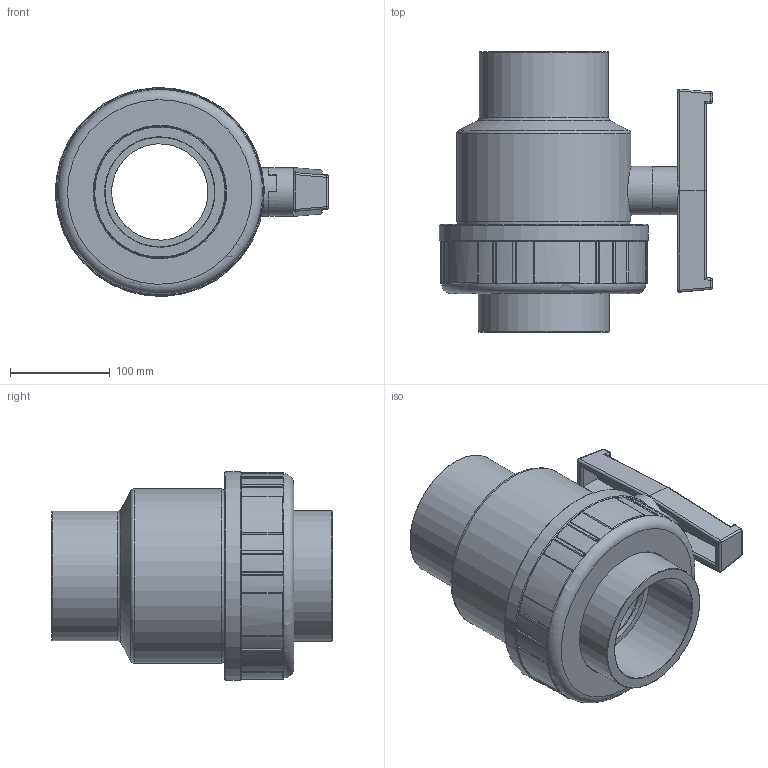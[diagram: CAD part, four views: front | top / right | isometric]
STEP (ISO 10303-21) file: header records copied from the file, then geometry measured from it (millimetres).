
FILE_DESCRIPTION(/* description */ (''),/* implementation_level */ '2;1');
FILE_NAME(/* name */ 'C:\Users\POLYPIPE\Desktop\DATASET INVENTOR\LIBRERIA EFFAST\3D_VALVOLE\3D_VALVOLE A SFERA\3D_SV\3D_BDRSVD\3D_BDRSVD1100.stp',/* time_stamp */ '2018-01-23T16:53:44+01:00',/* author */ ('POLYPIPE'),/* organization */ (''),/* preprocessor_version */ 'ST-DEVELOPER v16.1',/* originating_system */ 'Autodesk Inventor 2016',/* authorisation */ '');
FILE_SCHEMA (('CONFIG_CONTROL_DESIGN'));
Length unit declared in the file: centimetre
Products named in the file (1): 3D_BDRSVD1100
Bounding box: 274.39 x 281.3 x 209.78 mm (x, y, z)
Volume: 3955820.8 mm3; surface area: 435143.4 mm2
Topology: 2 solids, 3 shells, 323 faces, 802 edges, 496 vertices
Faces by surface type: cylinder 122, bspline 83, plane 78, torus 21, sphere 16, cone 3
Full cylindrical faces by diameter (mm): 32 x1, 48.3 x1, 48.8 x1, 96.8 x1, 97 x1, 110 x2, 130 x1, 131.8 x1, 133 x1, 134.1 x1, 164.3 x1, 173 x1, 175 x1, 179.8 x1, 210 x1
Entity records: 32009 total; most frequent: CARTESIAN_POINT 24491, ORIENTED_EDGE 1540, DIRECTION 1377, EDGE_CURVE 770, AXIS2_PLACEMENT_3D 550, VERTEX_POINT 490, EDGE_LOOP 364, STYLED_ITEM 325
